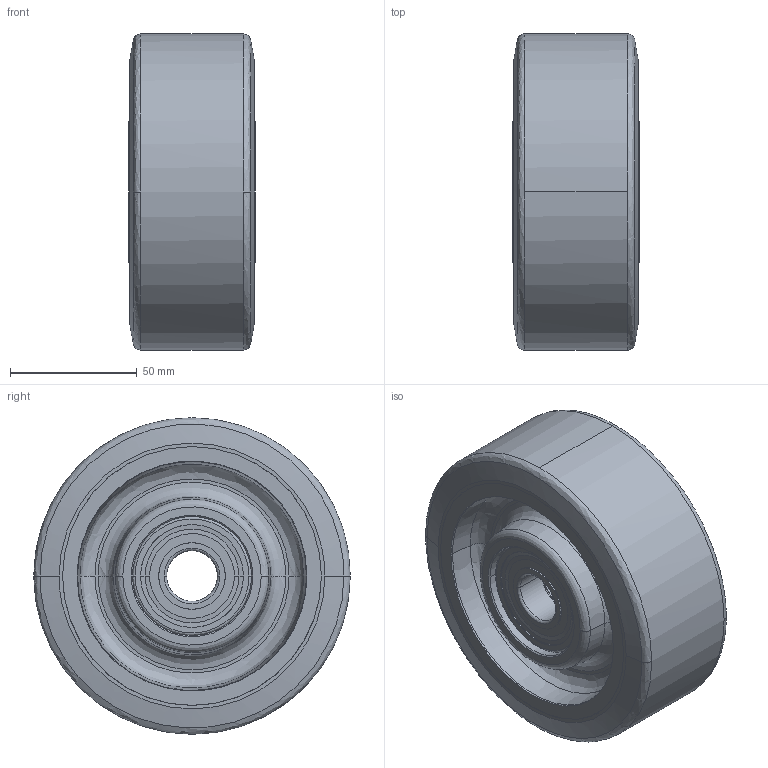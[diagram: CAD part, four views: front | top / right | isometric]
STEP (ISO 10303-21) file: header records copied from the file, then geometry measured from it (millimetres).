
FILE_DESCRIPTION (( 'STEP AP203' ), '1' );
FILE_NAME ('7014-cc.STEP', '2010-04-15T07:09:38', ( 'Utente' ), ( 'User' ), 'SwSTEP 2.0', 'SolidWorks 2008', '' );
FILE_SCHEMA (( 'CONFIG_CONTROL_DESIGN' ));
Length unit declared in the file: millimetre
Products named in the file (1): 7014-cc
Bounding box: 50 x 125 x 125 mm (x, y, z)
Surface area: 61400 mm2 (no closed solid volume)
Topology: 0 solids, 10 shells, 108 faces, 252 edges, 160 vertices
Faces by surface type: bspline 72, cylinder 20, plane 16
Entity records: 19492 total; most frequent: CARTESIAN_POINT 17577, ORIENTED_EDGE 462, EDGE_CURVE 252, B_SPLINE_CURVE_WITH_KNOTS 204, VERTEX_POINT 160, DIRECTION 150, EDGE_LOOP 124, FACE_OUTER_BOUND 108
